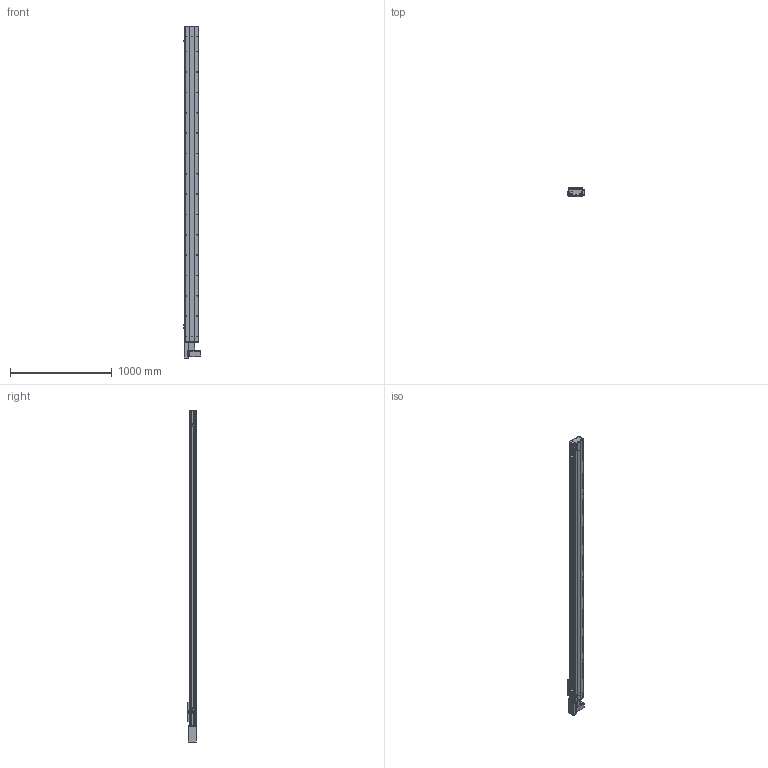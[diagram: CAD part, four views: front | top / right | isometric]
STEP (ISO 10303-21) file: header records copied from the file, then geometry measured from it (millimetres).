
FILE_DESCRIPTION (( 'STEP AP203' ), '1' );
FILE_NAME ('Y135CB-D90-S2800-BR-P400W.STEP', '2020-02-18T03:16:02', ( '微软用户' ), ( '微软中国' ), 'SwSTEP 2.0', 'SolidWorks 2017', '' );
FILE_SCHEMA (( 'CONFIG_CONTROL_DESIGN' ));
Length unit declared in the file: millimetre
Products named in the file (18): 0B-埴倛裔啣; Y135CB-D90-S2800-BR-P400W; 5CB --掛极耜裔啣-; 0B-源倛裔啣; C-詩湍揤踡え-陔; 0B-萇儂楊擘啣; 135CB--詩湍-CE; san松下电机400不带刹车----; Y135CB-耜裔; Y100-135俋离換覜ん--; 135CB---遴掛极.-; Y135C-陔俋离換覜結え-; 35CB---喘謫眊楊擘啣; 5C--俋欶; Y10B-耜蚾蟀諉啣----; C-雄赽釱--; Y俋欶BR----; Y10B--々湍喘謫眊--666
Assembly tree (21 placements, depth 2):
  Y135CB-D90-S2800-BR-P400W
    Y135CB-耜裔
    135CB---遴掛极.-
    35CB---喘謫眊楊擘啣
    Y10B-耜蚾蟀諉啣----
    Y俋欶BR----
    0B-埴倛裔啣
    0B-源倛裔啣
    0B-萇儂楊擘啣
    san松下电机400不带刹车----
    5CB --掛极耜裔啣-  x2
    C-詩湍揤踡え-陔  x2
    135CB--詩湍-CE
    Y100-135俋离換覜ん--  x3
    Y135C-陔俋离換覜結え-
    5C--俋欶
    C-雄赽釱--
    Y10B--々湍喘謫眊--666
Bounding box: 167.5 x 91 x 3264.5 mm (x, y, z)
Volume: 9061742.6 mm3; surface area: 3593865.5 mm2
Topology: 21 solids, 21 shells, 981 faces, 2689 edges, 1782 vertices
Faces by surface type: cylinder 507, plane 458, cone 16
Entity records: 31159 total; most frequent: CARTESIAN_POINT 5208, DIRECTION 5177, ORIENTED_EDGE 4854, EDGE_CURVE 2427, AXIS2_PLACEMENT_3D 1899, VERTEX_POINT 1610, VECTOR 1379, LINE 1379
